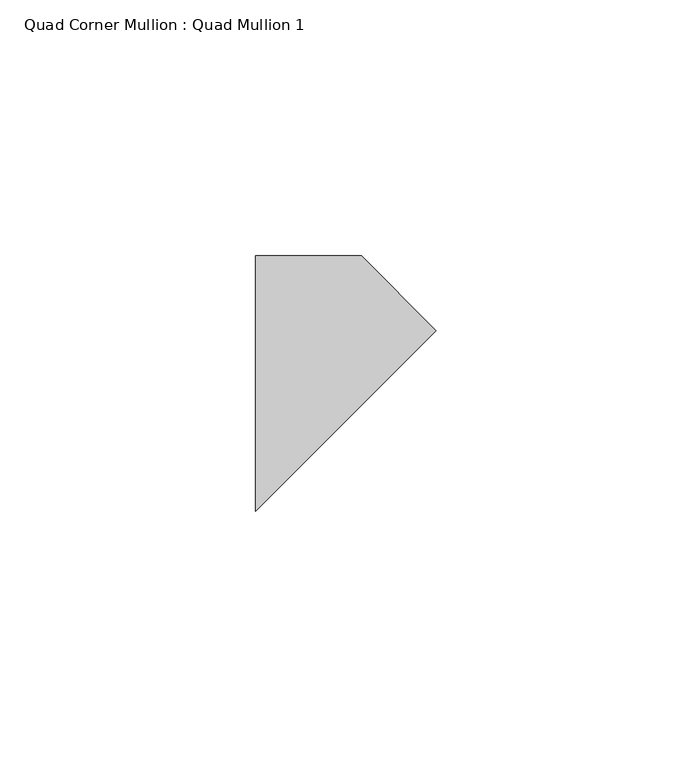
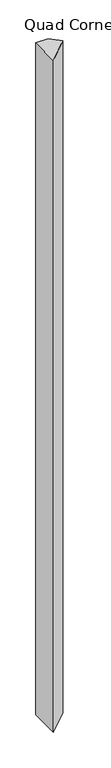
"""IFC4 building model written with IfcOpenShell, lengths in millimetres: member geometry, Quad Corner Mullion : Quad Mullion 1."""

from ifc_helpers import new_model, si_unit, frame, origin, place, context, project, spatial, polyline, outline, extrude, source, transform, mapped, element, save


def quad_corner_mullion_quad_mullion_1_bc27bc50(model_context):
    return source(origin(), model_context, "Body", "SweptSolid", [
        extrude(outline(polyline([(25.0, 10.3553391), (-10.3553391, -25.0), (-10.3553391, 25.0), (10.3553391, 25.0), (25.0, 10.3553391)])), frame((0.0, 0.0, -1150.0), z_axis=(0.0, 0.0, 1.0), x_axis=(1.0, 0.0, 0.0)), (0.0, 0.0, 1.0), 1150.0),
    ])


if __name__ == "__main__":
    model = new_model("IFC4")
    model_context = context("Model", 3, world=origin())
    ifc_project = project(units=[si_unit("LENGTHUNIT", "METRE", prefix="MILLI")], contexts=[model_context])
    site = spatial("IfcSite", under=ifc_project)
    building = spatial("IfcBuilding", under=site)
    placement = place(None, origin())
    quad_corner_mullion_quad_mullion_1_shape = quad_corner_mullion_quad_mullion_1_bc27bc50(model_context)
    element("IfcMember", 1, ObjectType="Quad Corner Mullion : Quad Mullion 1", at=placement, inside=building, context=model_context, shape_type="MappedRepresentation", body=[
        mapped(quad_corner_mullion_quad_mullion_1_shape, transform((0.0, 0.0, 0.0), x_axis=(1.0, 0.0, 0.0), y_axis=(0.0, 1.0, 0.0), z_axis=(0.0, 0.0, 1.0))),
    ])
    save(model, "model.ifc")
